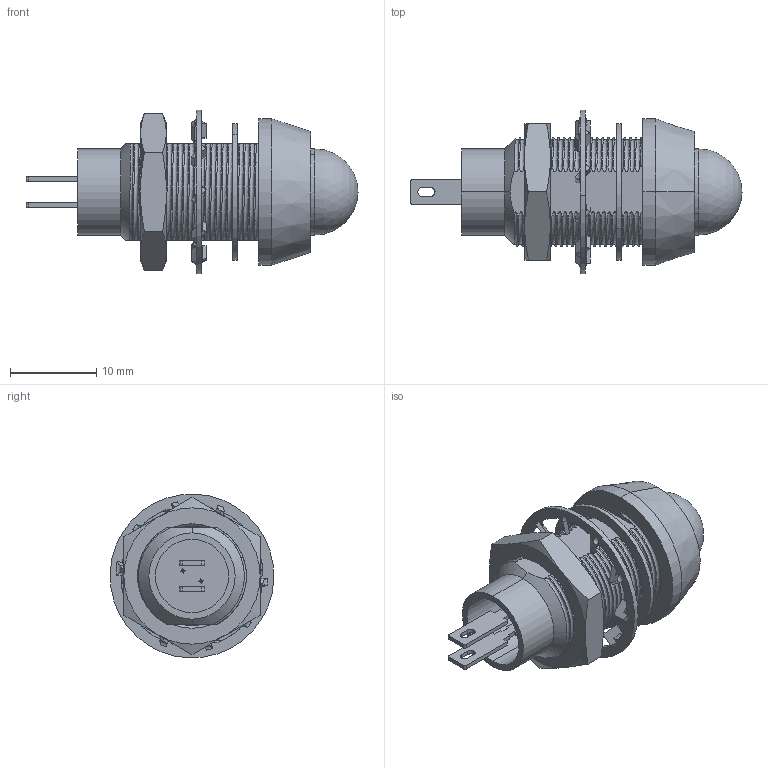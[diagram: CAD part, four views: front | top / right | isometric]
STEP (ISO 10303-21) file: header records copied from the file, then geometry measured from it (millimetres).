
FILE_DESCRIPTION (( 'STEP AP203' ), '1' );
FILE_NAME ('651series.STEP', '2016-03-01T08:09:28', ( '' ), ( '' ), 'SwSTEP 2.0', 'SolidWorks 2015', '' );
FILE_SCHEMA (( 'CONFIG_CONTROL_DESIGN' ));
Length unit declared in the file: millimetre
Products named in the file (7): com3324_PARALLEL; COM2027; 105d; COM2035; 651series; COM3559-C_Threaded; COM3579
Assembly tree (6 placements, depth 2):
  651series
    COM3559-C_Threaded
    com3324_PARALLEL
    COM2027
    COM2035
    COM3579
    105d
Bounding box: 38.5 x 18.99 x 18.99 mm (x, y, z)
Volume: 2995.7 mm3; surface area: 3795.4 mm2
Topology: 7 solids, 7 shells, 345 faces, 964 edges, 638 vertices
Faces by surface type: plane 143, cylinder 114, bspline 67, cone 15, torus 5, sphere 1
Entity records: 112725 total; most frequent: CARTESIAN_POINT 104197, ORIENTED_EDGE 1922, DIRECTION 1277, EDGE_CURVE 961, VERTEX_POINT 636, VECTOR 485, LINE 485, AXIS2_PLACEMENT_3D 396
